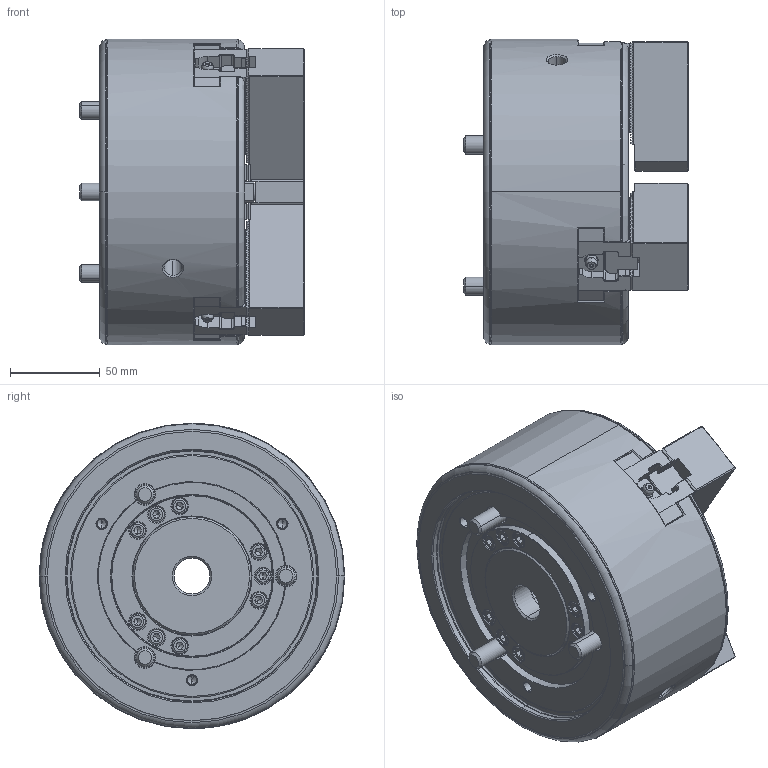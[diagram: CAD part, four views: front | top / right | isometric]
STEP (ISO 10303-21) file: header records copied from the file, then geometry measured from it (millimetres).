
FILE_DESCRIPTION (( 'STEP AP203' ), '1' );
FILE_NAME ('DEV-BR06-OC.STEP', '2024-03-07T01:03:08', ( '' ), ( '' ), 'SwSTEP 2.0', 'SolidWorks 2022', '' );
FILE_SCHEMA (( 'CONFIG_CONTROL_DESIGN' ));
Length unit declared in the file: millimetre
Products named in the file (9): DEV-BR06-OC; Bアナツキ M10×80; BR06-Nishi05 Plus-Tナット_61P447483-1 BB206 Tﾅｯﾄ-ﾃﾞﾌｫﾙﾄ; BR06-Nishi07 ドローナット(ｸﾘｯｸｽﾄｯﾌﾟ穴変更)_ﾃﾞﾌｫﾙﾄ(外観用); Bアナツキボタン M5×10_デフォルト; 61P302540-2 SB06B1 ソフトジョー_SB06B1-ﾃﾞﾌｫﾙﾄ(外観用); Part48^DEV-BR06-クミタテ; Bアナツキ M10×25; 61P367002-1 BB206 カバー
Assembly tree (21 placements, depth 2):
  DEV-BR06-OC
    BR06-Nishi07 ドローナット(ｸﾘｯｸｽﾄｯﾌﾟ穴変更)_ﾃﾞﾌｫﾙﾄ(外観用)
    61P302540-2 SB06B1 ソフトジョー_SB06B1-ﾃﾞﾌｫﾙﾄ(外観用)  x3
    BR06-Nishi05 Plus-Tナット_61P447483-1 BB206 Tﾅｯﾄ-ﾃﾞﾌｫﾙﾄ  x3
    61P367002-1 BB206 カバー
    Bアナツキ M10×25  x6
    Bアナツキボタン M5×10_デフォルト  x3
    Bアナツキ M10×80  x3
    Part48^DEV-BR06-クミタテ
Bounding box: 125.2 x 170 x 170 mm (x, y, z)
Volume: 1746705.8 mm3; surface area: 246153 mm2
Topology: 21 solids, 51 shells, 3653 faces, 9734 edges, 6236 vertices
Faces by surface type: plane 2485, cylinder 500, cone 389, bspline 150, torus 117, sphere 12
Entity records: 91924 total; most frequent: CARTESIAN_POINT 22741, ORIENTED_EDGE 14598, DIRECTION 13317, EDGE_CURVE 7299, VECTOR 5233, LINE 5233, VERTEX_POINT 4722, AXIS2_PLACEMENT_3D 4042
